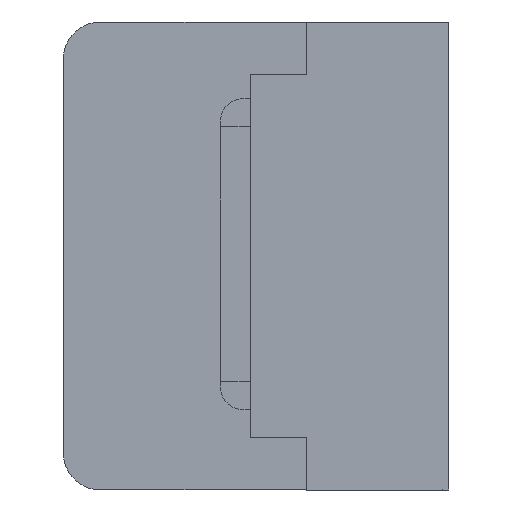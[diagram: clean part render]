
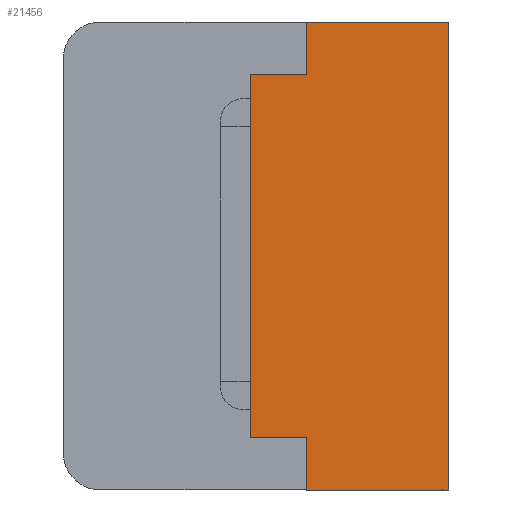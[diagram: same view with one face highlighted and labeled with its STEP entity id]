
A CAD part, left-side view. The second image highlights one B-rep face of the part: STEP entity #21456.
In plain terms, the highlighted planar face has unit normal (-1, 0, 0).
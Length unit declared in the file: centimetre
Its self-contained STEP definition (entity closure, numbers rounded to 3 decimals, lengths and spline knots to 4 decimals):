
#1336=PLANE('',#35305);
#2056=VECTOR('',#22739,1.);
#2141=VECTOR('',#22859,1.);
#2143=VECTOR('',#22864,1.);
#2172=VECTOR('',#22894,1.);
#3333=VECTOR('',#25552,1.);
#3334=VECTOR('',#25553,1.);
#3335=VECTOR('',#25554,1.);
#3336=VECTOR('',#25555,1.);
#4312=LINE('',#28217,#2056);
#4397=LINE('',#28402,#2141);
#4399=LINE('',#28408,#2143);
#4428=LINE('',#28465,#2172);
#5589=LINE('',#32526,#3333);
#5590=LINE('',#32528,#3334);
#5591=LINE('',#32529,#3335);
#5592=LINE('',#32531,#3336);
#6504=VERTEX_POINT('',#28216);
#6505=VERTEX_POINT('',#28218);
#6546=VERTEX_POINT('',#28334);
#6579=VERTEX_POINT('',#28401);
#6581=VERTEX_POINT('',#28407);
#6609=VERTEX_POINT('',#28466);
#7740=VERTEX_POINT('',#32527);
#7741=VERTEX_POINT('',#32530);
#9259=EDGE_CURVE('',#6504,#6505,#4312,.T.);
#9351=EDGE_CURVE('',#6579,#6546,#4397,.T.);
#9354=EDGE_CURVE('',#6546,#6581,#4399,.T.);
#9383=EDGE_CURVE('',#6581,#6609,#4428,.T.);
#11130=EDGE_CURVE('',#7740,#6579,#5589,.T.);
#11131=EDGE_CURVE('',#6505,#7740,#5590,.T.);
#11132=EDGE_CURVE('',#7741,#6504,#5591,.T.);
#11133=EDGE_CURVE('',#6609,#7741,#5592,.T.);
#16923=ORIENTED_EDGE('',*,*,#11130,.F.);
#16924=ORIENTED_EDGE('',*,*,#11131,.F.);
#16925=ORIENTED_EDGE('',*,*,#9259,.F.);
#16926=ORIENTED_EDGE('',*,*,#11132,.F.);
#16927=ORIENTED_EDGE('',*,*,#11133,.F.);
#16928=ORIENTED_EDGE('',*,*,#9383,.F.);
#16929=ORIENTED_EDGE('',*,*,#9354,.F.);
#16930=ORIENTED_EDGE('',*,*,#9351,.F.);
#18993=EDGE_LOOP('',(#16923,#16924,#16925,#16926,#16927,#16928,#16929,#16930));
#20267=FACE_BOUND('',#18993,.T.);
#21456=ADVANCED_FACE('',(#20267),#1336,.F.);
#22739=DIRECTION('',(0.,0.,1.));
#22859=DIRECTION('',(0.,-1.,0.));
#22864=DIRECTION('',(0.,0.,-1.));
#22894=DIRECTION('',(0.,1.,0.));
#25551=DIRECTION('',(1.,0.,0.));
#25552=DIRECTION('',(0.,0.,1.));
#25553=DIRECTION('',(0.,-1.,0.));
#25554=DIRECTION('',(0.,1.,0.));
#25555=DIRECTION('',(0.,0.,1.));
#28216=CARTESIAN_POINT('',(-1.382,0.53,-0.485));
#28217=CARTESIAN_POINT('',(-1.382,0.53,-0.485));
#28218=CARTESIAN_POINT('',(-1.382,0.53,0.485));
#28334=CARTESIAN_POINT('',(-1.382,0.,0.625));
#28401=CARTESIAN_POINT('',(-1.382,0.38,0.625));
#28402=CARTESIAN_POINT('',(-1.382,0.38,0.625));
#28407=CARTESIAN_POINT('',(-1.382,0.,-0.625));
#28408=CARTESIAN_POINT('',(-1.382,0.,0.625));
#28465=CARTESIAN_POINT('',(-1.382,0.,-0.625));
#28466=CARTESIAN_POINT('',(-1.382,0.38,-0.625));
#32525=CARTESIAN_POINT('',(-1.382,0.2532,0.));
#32526=CARTESIAN_POINT('',(-1.382,0.38,0.485));
#32527=CARTESIAN_POINT('',(-1.382,0.38,0.485));
#32528=CARTESIAN_POINT('',(-1.382,0.53,0.485));
#32529=CARTESIAN_POINT('',(-1.382,0.38,-0.485));
#32530=CARTESIAN_POINT('',(-1.382,0.38,-0.485));
#32531=CARTESIAN_POINT('',(-1.382,0.38,-0.625));
#35305=AXIS2_PLACEMENT_3D('',#32525,#25551,$);
